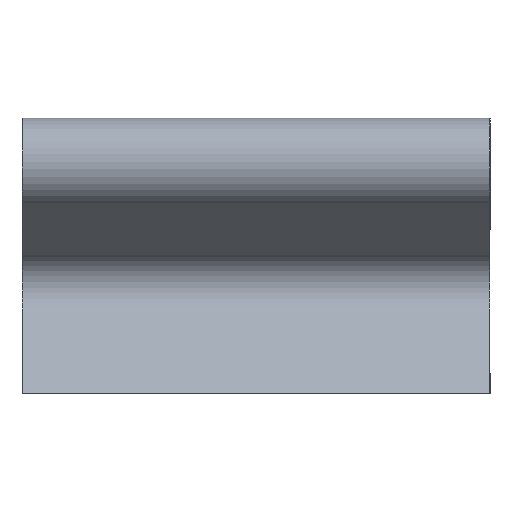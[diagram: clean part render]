
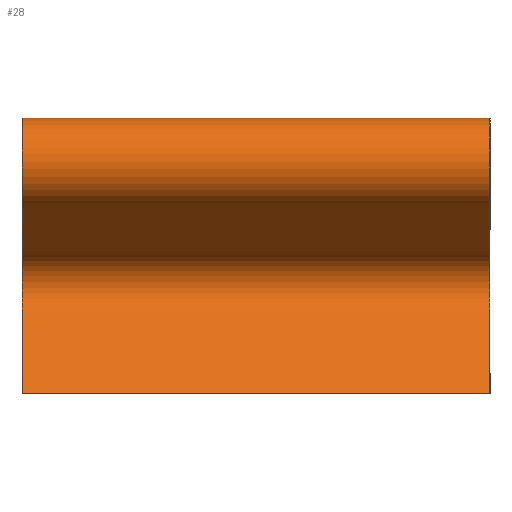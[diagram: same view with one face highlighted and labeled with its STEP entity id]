
A CAD part, left-side view. The second image highlights one B-rep face of the part: STEP entity #28.
In plain terms, the highlighted free-form (B-spline) face has degree [1, 2] with [2, 27] control points.
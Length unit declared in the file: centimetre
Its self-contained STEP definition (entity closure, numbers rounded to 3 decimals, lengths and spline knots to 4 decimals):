
#28=ADVANCED_FACE($,(#57),#299,.T.);
#57=FACE_OUTER_BOUND($,#86,.T.);
#86=EDGE_LOOP($,(#129,#130,#131,#132));
#129=ORIENTED_EDGE($,*,*,#218,.T.);
#130=ORIENTED_EDGE($,*,*,#225,.T.);
#131=ORIENTED_EDGE($,*,*,#222,.F.);
#132=ORIENTED_EDGE($,*,*,#226,.F.);
#218=EDGE_CURVE($,#268,#267,#371,.T.);
#222=EDGE_CURVE($,#272,#271,#373,.T.);
#225=EDGE_CURVE($,#267,#271,#333,.T.);
#226=EDGE_CURVE($,#268,#272,#334,.T.);
#267=VERTEX_POINT($,#749);
#268=VERTEX_POINT($,#750);
#271=VERTEX_POINT($,#753);
#272=VERTEX_POINT($,#754);
#299=(
BOUNDED_SURFACE()
B_SPLINE_SURFACE(1,2,((#661,#662,#663,#664,#665,#666,#667,#668,#669,#670,
#671,#672,#673,#674,#675,#676,#677,#678,#679,#680,#681,#682,#683,#684,#685,
#686,#687),(#688,#689,#690,#691,#692,#693,#694,#695,#696,#697,#698,#699,
#700,#701,#702,#703,#704,#705,#706,#707,#708,#709,#710,#711,#712,#713,#714)),
.UNSPECIFIED.,.F.,.F.,.F.)
B_SPLINE_SURFACE_WITH_KNOTS((2,2),(3,2,2,2,2,2,2,2,2,2,2,2,2,3),(0.,68.),
(-399.8258,-383.4348,-378.3951,-373.3555,
-358.8252,-351.6257,-344.4262,-227.8613,
-220.6618,-213.4623,-198.932,-193.8923,-188.8527,
-172.4616),.UNSPECIFIED.)
GEOMETRIC_REPRESENTATION_ITEM()
RATIONAL_B_SPLINE_SURFACE(((1.,1.,1.,0.897,1.,0.897,
1.,1.,1.,0.793,1.,0.793,1.,1.,1.,0.793,
1.,0.793,1.,1.,1.,0.897,1.,0.897,1.,1.,
1.),(1.,1.,1.,0.897,1.,0.897,1.,1.,1.,0.793,
1.,0.793,1.,1.,1.,0.793,1.,0.793,1.,1.,
1.,0.897,1.,0.897,1.,1.,1.)))
REPRESENTATION_ITEM($)
SURFACE()
);
#333=B_SPLINE_CURVE_WITH_KNOTS($,1,(#626,#627),.UNSPECIFIED.,.F.,.F.,(2,
2),(0.,68.),.UNSPECIFIED.);
#334=B_SPLINE_CURVE_WITH_KNOTS($,1,(#628,#629),.UNSPECIFIED.,.F.,.F.,(2,
2),(0.,68.),.UNSPECIFIED.);
#371=(
BOUNDED_CURVE()
B_SPLINE_CURVE(2,(#551,#552,#553,#554,#555,#556,#557,#558,#559,#560,#561,
#562,#563,#564,#565,#566,#567,#568,#569,#570,#571,#572,#573,#574,#575,#576,
#577),.UNSPECIFIED.,.F.,.F.)
B_SPLINE_CURVE_WITH_KNOTS((3,2,2,2,2,2,2,2,2,2,2,2,2,3),(172.4616,
188.8527,193.8923,198.932,213.4623,220.6618,
227.8613,344.4262,351.6257,358.8252,373.3555,
378.3951,383.4348,399.8258),.UNSPECIFIED.)
CURVE()
GEOMETRIC_REPRESENTATION_ITEM()
RATIONAL_B_SPLINE_CURVE((1.,1.,1.,0.897,1.,0.897,
1.,1.,1.,0.793,1.,0.793,1.,1.,1.,0.793,
1.,0.793,1.,1.,1.,0.897,1.,0.897,1.,1.,
1.))
REPRESENTATION_ITEM($)
);
#373=(
BOUNDED_CURVE()
B_SPLINE_CURVE(2,(#595,#596,#597,#598,#599,#600,#601,#602,#603,#604,#605,
#606,#607,#608,#609,#610,#611,#612,#613,#614,#615,#616,#617,#618,#619,#620,
#621),.UNSPECIFIED.,.F.,.F.)
B_SPLINE_CURVE_WITH_KNOTS((3,2,2,2,2,2,2,2,2,2,2,2,2,3),(172.4616,
188.8527,193.8923,198.932,213.4623,220.6618,
227.8613,344.4262,351.6257,358.8252,373.3555,
378.3951,383.4348,399.8258),.UNSPECIFIED.)
CURVE()
GEOMETRIC_REPRESENTATION_ITEM()
RATIONAL_B_SPLINE_CURVE((1.,1.,1.,0.897,1.,0.897,
1.,1.,1.,0.793,1.,0.793,1.,1.,1.,0.793,
1.,0.793,1.,1.,1.,0.897,1.,0.897,1.,1.,
1.))
REPRESENTATION_ITEM($)
);
#551=CARTESIAN_POINT($,(5.5,0.,0.));
#552=CARTESIAN_POINT($,(11.2951,0.,5.7951));
#553=CARTESIAN_POINT($,(17.0902,0.,11.5902));
#554=CARTESIAN_POINT($,(19.0081,0.,13.5081));
#555=CARTESIAN_POINT($,(18.6541,0.,16.1972));
#556=CARTESIAN_POINT($,(18.3001,0.,18.8863));
#557=CARTESIAN_POINT($,(15.9512,0.,20.2425));
#558=CARTESIAN_POINT($,(9.6593,0.,23.8751));
#559=CARTESIAN_POINT($,(3.3675,0.,27.5076));
#560=CARTESIAN_POINT($,(-1.0848,0.,30.0782));
#561=CARTESIAN_POINT($,(0.2458,0.,35.0441));
#562=CARTESIAN_POINT($,(1.5764,0.,40.01));
#563=CARTESIAN_POINT($,(6.7175,0.,40.01));
#564=CARTESIAN_POINT($,(65.,0.,40.01));
#565=CARTESIAN_POINT($,(123.2825,0.,40.01));
#566=CARTESIAN_POINT($,(128.4236,0.,40.01));
#567=CARTESIAN_POINT($,(129.7542,0.,35.0441));
#568=CARTESIAN_POINT($,(131.0848,0.,30.0782));
#569=CARTESIAN_POINT($,(126.6325,0.,27.5076));
#570=CARTESIAN_POINT($,(120.3407,0.,23.8751));
#571=CARTESIAN_POINT($,(114.0488,0.,20.2425));
#572=CARTESIAN_POINT($,(111.6999,0.,18.8863));
#573=CARTESIAN_POINT($,(111.3459,0.,16.1972));
#574=CARTESIAN_POINT($,(110.9919,0.,13.5081));
#575=CARTESIAN_POINT($,(112.9098,0.,11.5902));
#576=CARTESIAN_POINT($,(118.7049,0.,5.7951));
#577=CARTESIAN_POINT($,(124.5,0.,0.));
#595=CARTESIAN_POINT($,(5.5,68.,0.));
#596=CARTESIAN_POINT($,(11.2951,68.,5.7951));
#597=CARTESIAN_POINT($,(17.0902,68.,11.5902));
#598=CARTESIAN_POINT($,(19.0081,68.,13.5081));
#599=CARTESIAN_POINT($,(18.6541,68.,16.1972));
#600=CARTESIAN_POINT($,(18.3001,68.,18.8863));
#601=CARTESIAN_POINT($,(15.9512,68.,20.2425));
#602=CARTESIAN_POINT($,(9.6593,68.,23.8751));
#603=CARTESIAN_POINT($,(3.3675,68.,27.5076));
#604=CARTESIAN_POINT($,(-1.0848,68.,30.0782));
#605=CARTESIAN_POINT($,(0.2458,68.,35.0441));
#606=CARTESIAN_POINT($,(1.5764,68.,40.01));
#607=CARTESIAN_POINT($,(6.7175,68.,40.01));
#608=CARTESIAN_POINT($,(65.,68.,40.01));
#609=CARTESIAN_POINT($,(123.2825,68.,40.01));
#610=CARTESIAN_POINT($,(128.4236,68.,40.01));
#611=CARTESIAN_POINT($,(129.7542,68.,35.0441));
#612=CARTESIAN_POINT($,(131.0848,68.,30.0782));
#613=CARTESIAN_POINT($,(126.6325,68.,27.5076));
#614=CARTESIAN_POINT($,(120.3407,68.,23.8751));
#615=CARTESIAN_POINT($,(114.0488,68.,20.2425));
#616=CARTESIAN_POINT($,(111.6999,68.,18.8863));
#617=CARTESIAN_POINT($,(111.3459,68.,16.1972));
#618=CARTESIAN_POINT($,(110.9919,68.,13.5081));
#619=CARTESIAN_POINT($,(112.9098,68.,11.5902));
#620=CARTESIAN_POINT($,(118.7049,68.,5.7951));
#621=CARTESIAN_POINT($,(124.5,68.,0.));
#626=CARTESIAN_POINT($,(124.5,0.,0.));
#627=CARTESIAN_POINT($,(124.5,68.,0.));
#628=CARTESIAN_POINT($,(5.5,0.,0.));
#629=CARTESIAN_POINT($,(5.5,68.,0.));
#661=CARTESIAN_POINT($,(124.5,0.,0.));
#662=CARTESIAN_POINT($,(118.7049,0.,5.7951));
#663=CARTESIAN_POINT($,(112.9098,0.,11.5902));
#664=CARTESIAN_POINT($,(110.9919,0.,13.5081));
#665=CARTESIAN_POINT($,(111.3459,0.,16.1972));
#666=CARTESIAN_POINT($,(111.6999,0.,18.8863));
#667=CARTESIAN_POINT($,(114.0488,0.,20.2425));
#668=CARTESIAN_POINT($,(120.3407,0.,23.8751));
#669=CARTESIAN_POINT($,(126.6325,0.,27.5076));
#670=CARTESIAN_POINT($,(131.0848,0.,30.0782));
#671=CARTESIAN_POINT($,(129.7542,0.,35.0441));
#672=CARTESIAN_POINT($,(128.4236,0.,40.01));
#673=CARTESIAN_POINT($,(123.2825,0.,40.01));
#674=CARTESIAN_POINT($,(65.,0.,40.01));
#675=CARTESIAN_POINT($,(6.7175,0.,40.01));
#676=CARTESIAN_POINT($,(1.5764,0.,40.01));
#677=CARTESIAN_POINT($,(0.2458,0.,35.0441));
#678=CARTESIAN_POINT($,(-1.0848,0.,30.0782));
#679=CARTESIAN_POINT($,(3.3675,0.,27.5076));
#680=CARTESIAN_POINT($,(9.6593,0.,23.8751));
#681=CARTESIAN_POINT($,(15.9512,0.,20.2425));
#682=CARTESIAN_POINT($,(18.3001,0.,18.8863));
#683=CARTESIAN_POINT($,(18.6541,0.,16.1972));
#684=CARTESIAN_POINT($,(19.0081,0.,13.5081));
#685=CARTESIAN_POINT($,(17.0902,0.,11.5902));
#686=CARTESIAN_POINT($,(11.2951,0.,5.7951));
#687=CARTESIAN_POINT($,(5.5,0.,0.));
#688=CARTESIAN_POINT($,(124.5,68.,0.));
#689=CARTESIAN_POINT($,(118.7049,68.,5.7951));
#690=CARTESIAN_POINT($,(112.9098,68.,11.5902));
#691=CARTESIAN_POINT($,(110.9919,68.,13.5081));
#692=CARTESIAN_POINT($,(111.3459,68.,16.1972));
#693=CARTESIAN_POINT($,(111.6999,68.,18.8863));
#694=CARTESIAN_POINT($,(114.0488,68.,20.2425));
#695=CARTESIAN_POINT($,(120.3407,68.,23.8751));
#696=CARTESIAN_POINT($,(126.6325,68.,27.5076));
#697=CARTESIAN_POINT($,(131.0848,68.,30.0782));
#698=CARTESIAN_POINT($,(129.7542,68.,35.0441));
#699=CARTESIAN_POINT($,(128.4236,68.,40.01));
#700=CARTESIAN_POINT($,(123.2825,68.,40.01));
#701=CARTESIAN_POINT($,(65.,68.,40.01));
#702=CARTESIAN_POINT($,(6.7175,68.,40.01));
#703=CARTESIAN_POINT($,(1.5764,68.,40.01));
#704=CARTESIAN_POINT($,(0.2458,68.,35.0441));
#705=CARTESIAN_POINT($,(-1.0848,68.,30.0782));
#706=CARTESIAN_POINT($,(3.3675,68.,27.5076));
#707=CARTESIAN_POINT($,(9.6593,68.,23.8751));
#708=CARTESIAN_POINT($,(15.9512,68.,20.2425));
#709=CARTESIAN_POINT($,(18.3001,68.,18.8863));
#710=CARTESIAN_POINT($,(18.6541,68.,16.1972));
#711=CARTESIAN_POINT($,(19.0081,68.,13.5081));
#712=CARTESIAN_POINT($,(17.0902,68.,11.5902));
#713=CARTESIAN_POINT($,(11.2951,68.,5.7951));
#714=CARTESIAN_POINT($,(5.5,68.,0.));
#749=CARTESIAN_POINT($,(124.5,0.,0.));
#750=CARTESIAN_POINT($,(5.5,0.,0.));
#753=CARTESIAN_POINT($,(124.5,68.,0.));
#754=CARTESIAN_POINT($,(5.5,68.,0.));
